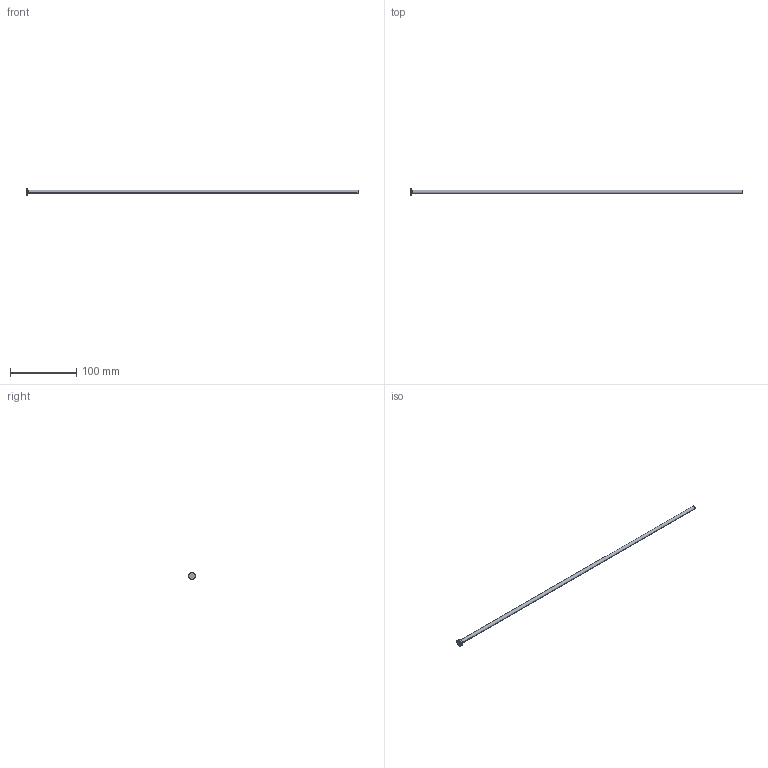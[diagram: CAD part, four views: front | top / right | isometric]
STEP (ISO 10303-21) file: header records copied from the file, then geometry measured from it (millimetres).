
FILE_DESCRIPTION (( 'STEP AP214' ), '1' );
FILE_NAME ('A-5,5x500.STEP', '2020-05-29T15:32:48', ( 'August' ), ( '' ), 'SwSTEP 2.0', 'SolidWorks 2018', '' );
FILE_SCHEMA (( 'AUTOMOTIVE_DESIGN' ));
Length unit declared in the file: millimetre
Products named in the file (1): A-5,5x500
Bounding box: 500 x 10 x 10 mm (x, y, z)
Volume: 12043.8 mm3; surface area: 8836.7 mm2
Topology: 1 solids, 1 shells, 9 faces, 16 edges, 10 vertices
Faces by surface type: cylinder 4, plane 3, torus 2
Entity records: 260 total; most frequent: DIRECTION 48, CARTESIAN_POINT 36, ORIENTED_EDGE 32, AXIS2_PLACEMENT_3D 22, EDGE_CURVE 16, CIRCLE 12, VERTEX_POINT 10, EDGE_LOOP 10
